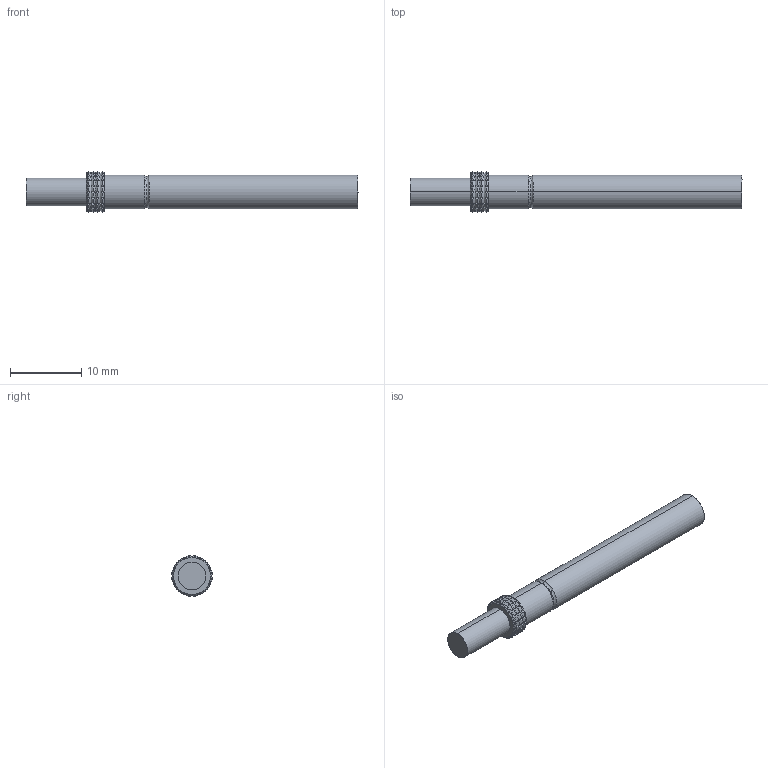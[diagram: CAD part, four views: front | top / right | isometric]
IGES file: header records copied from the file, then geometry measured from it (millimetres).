
Start section: SolidWorks IGES file using analytic representation for surfaces
Global section: file name: O:\PYLON\IGES FILES\P4301\P4301-2F REC'D.IGS; native system: SolidWorks 2015; preprocessor: SolidWorks 2015; author: kgolden; date: 171020.124243; units: inch
Bounding box: 46.56 x 5.7 x 5.7 mm (x, y, z)
Surface area: 1302.3 mm2 (no closed solid volume)
Topology: 0 solids, 0 shells, 370 faces, 1997 edges, 1997 vertices
Faces by surface type: revolution 193, bspline 177
